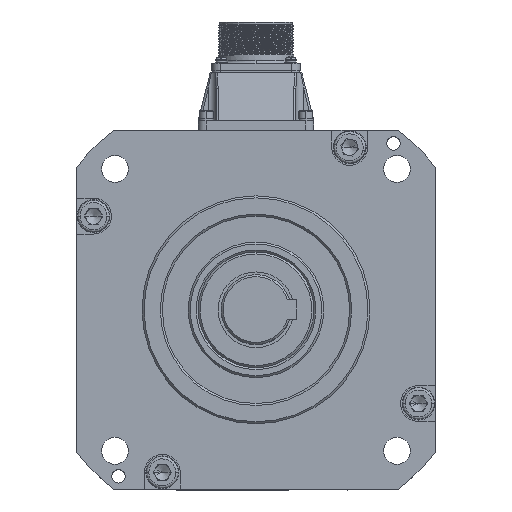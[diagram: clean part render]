
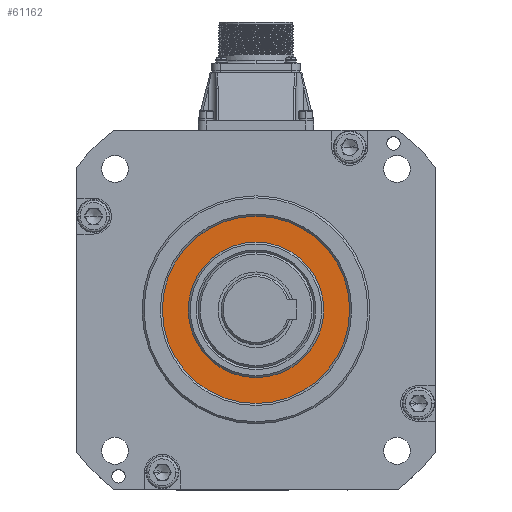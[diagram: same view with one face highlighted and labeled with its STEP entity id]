
A CAD part, top view. The second image highlights one B-rep face of the part: STEP entity #61162.
In plain terms, the highlighted planar face has unit normal (0, 0, 1).
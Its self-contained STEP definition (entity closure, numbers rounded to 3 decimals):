
#458 = ORIENTED_EDGE ( 'NONE', *, *, #82184, .T. ) ;
#5010 = CARTESIAN_POINT ( 'NONE',  ( 151.343, 195.744, 272.437 ) ) ;
#6898 = DIRECTION ( 'NONE',  ( 0., 0., -1. ) ) ;
#11590 = CIRCLE ( 'NONE', #33025, 47. ) ;
#13352 = AXIS2_PLACEMENT_3D ( 'NONE', #27308, #44274, #103221 ) ;
#13448 = DIRECTION ( 'NONE',  ( -1., 0., 0. ) ) ;
#14071 = CARTESIAN_POINT ( 'NONE',  ( 151.343, 195.744, 272.437 ) ) ;
#15052 = CARTESIAN_POINT ( 'NONE',  ( 185.343, 195.744, 272.437 ) ) ;
#16866 = VERTEX_POINT ( 'NONE', #15052 ) ;
#17986 = CARTESIAN_POINT ( 'NONE',  ( 151.343, 195.744, 272.437 ) ) ;
#21699 = CARTESIAN_POINT ( 'NONE',  ( 198.343, 195.744, 272.437 ) ) ;
#22505 = DIRECTION ( 'NONE',  ( -1., 0., 0. ) ) ;
#24900 = VERTEX_POINT ( 'NONE', #21699 ) ;
#26446 = DIRECTION ( 'NONE',  ( -1., 0., 0. ) ) ;
#26559 = ORIENTED_EDGE ( 'NONE', *, *, #63748, .T. ) ;
#27308 = CARTESIAN_POINT ( 'NONE',  ( 151.343, 195.744, 272.437 ) ) ;
#33025 = AXIS2_PLACEMENT_3D ( 'NONE', #5010, #63841, #13448 ) ;
#35804 = PLANE ( 'NONE',  #13352 ) ;
#38160 = EDGE_CURVE ( 'NONE', #67048, #24900, #73787, .T. ) ;
#40017 = FACE_BOUND ( 'NONE', #83236, .T. ) ;
#44170 = AXIS2_PLACEMENT_3D ( 'NONE', #57235, #6898, #65725 ) ;
#44274 = DIRECTION ( 'NONE',  ( 0., 0., 1. ) ) ;
#57235 = CARTESIAN_POINT ( 'NONE',  ( 151.343, 195.744, 272.437 ) ) ;
#61162 = ADVANCED_FACE ( 'NONE', ( #79496, #40017 ), #35804, .T. ) ;
#63748 = EDGE_CURVE ( 'NONE', #89374, #16866, #90814, .T. ) ;
#63841 = DIRECTION ( 'NONE',  ( 0., 0., 1. ) ) ;
#65725 = DIRECTION ( 'NONE',  ( -1., 0., 0. ) ) ;
#66400 = AXIS2_PLACEMENT_3D ( 'NONE', #17986, #76891, #26446 ) ;
#67048 = VERTEX_POINT ( 'NONE', #94515 ) ;
#72945 = DIRECTION ( 'NONE',  ( 0., 0., 1. ) ) ;
#73787 = CIRCLE ( 'NONE', #78563, 47. ) ;
#73910 = CARTESIAN_POINT ( 'NONE',  ( 117.343, 195.744, 272.437 ) ) ;
#76891 = DIRECTION ( 'NONE',  ( 0., 0., -1. ) ) ;
#78563 = AXIS2_PLACEMENT_3D ( 'NONE', #14071, #72945, #22505 ) ;
#79496 = FACE_OUTER_BOUND ( 'NONE', #90771, .T. ) ;
#82184 = EDGE_CURVE ( 'NONE', #24900, #67048, #11590, .T. ) ;
#83236 = EDGE_LOOP ( 'NONE', ( #26559, #91175 ) ) ;
#84833 = CIRCLE ( 'NONE', #44170, 34. ) ;
#89374 = VERTEX_POINT ( 'NONE', #73910 ) ;
#90771 = EDGE_LOOP ( 'NONE', ( #95577, #458 ) ) ;
#90814 = CIRCLE ( 'NONE', #66400, 34. ) ;
#91175 = ORIENTED_EDGE ( 'NONE', *, *, #107184, .T. ) ;
#94515 = CARTESIAN_POINT ( 'NONE',  ( 104.343, 195.744, 272.437 ) ) ;
#95577 = ORIENTED_EDGE ( 'NONE', *, *, #38160, .T. ) ;
#103221 = DIRECTION ( 'NONE',  ( 1., 0., 0. ) ) ;
#107184 = EDGE_CURVE ( 'NONE', #16866, #89374, #84833, .T. ) ;
